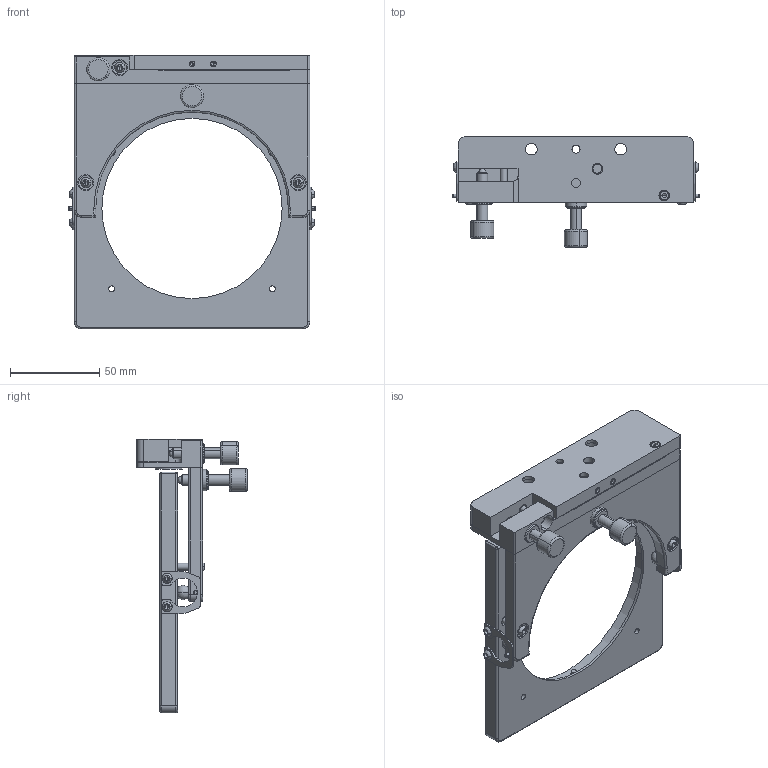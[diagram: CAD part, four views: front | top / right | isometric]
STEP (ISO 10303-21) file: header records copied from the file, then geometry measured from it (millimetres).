
FILE_DESCRIPTION (( 'STEP AP203' ), '1' );
FILE_NAME ('7MM08106謗峎覃淕噩殤.STEP', '2022-03-04T03:01:06', ( '' ), ( '' ), 'SwSTEP 2.0', 'SolidWorks 2018', '' );
FILE_SCHEMA (( 'CONFIG_CONTROL_DESIGN' ));
Length unit declared in the file: millimetre
Products named in the file (1): 7MM08106謗峎覃淕噩殤
Bounding box: 138 x 62 x 153.5 mm (x, y, z)
Volume: 194442.3 mm3; surface area: 81031.4 mm2
Topology: 51 solids, 51 shells, 881 faces, 1963 edges, 1178 vertices
Faces by surface type: plane 355, cylinder 330, cone 132, sphere 38, torus 26
Entity records: 24322 total; most frequent: DIRECTION 4507, CARTESIAN_POINT 4330, ORIENTED_EDGE 3778, EDGE_CURVE 1889, AXIS2_PLACEMENT_3D 1765, VERTEX_POINT 1166, EDGE_LOOP 1041, LINE 977
